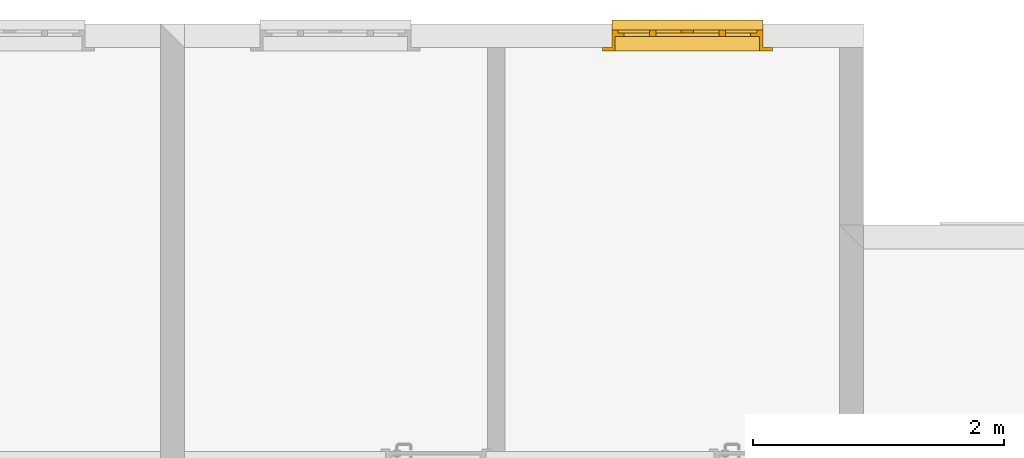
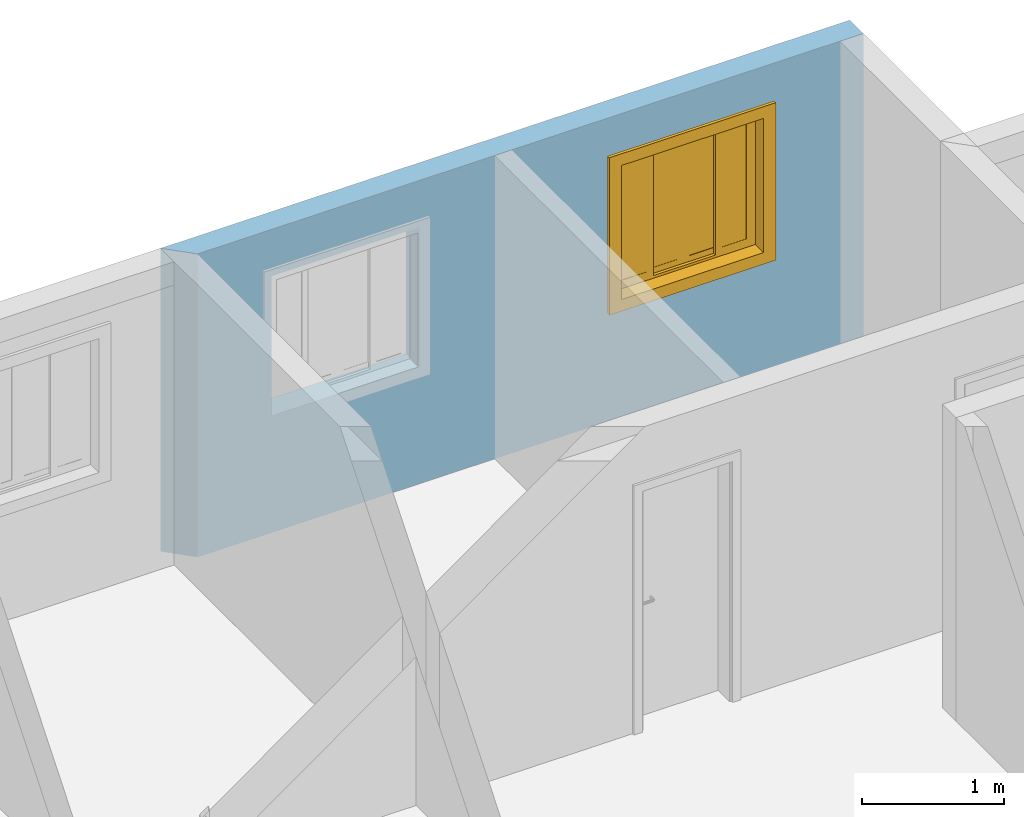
# One storey, part 45 of 47: 1 window, 2 openings, plus 1 element that does not belong to this part.
"""IFC2X3 building model written with IfcOpenShell, lengths in millimetres."""

from ifc_helpers import new_model, entity, si_unit, converted_unit, derived_unit, money_unit, direction, frame, origin_with_axes, origin_2d_with_axis, place, context, subcontext, project, spatial, polyline, rectangle, outline, extrude, open_shell, faceted_brep, surface_model, source, transform, mapped, material, layer, layer_set, layer_usage, type_object, element, fill, save


model = new_model("IFC2X3")

# Units and contexts
model_context = context("Model", 3, precision=0.01, world=origin_with_axes(), true_north=direction((0.0, 1.0)))
body_context = subcontext(model_context, "Body", "Model", "MODEL_VIEW")
ifc_project = project(units=[si_unit("LENGTHUNIT", "METRE", prefix="MILLI"), si_unit("AREAUNIT", "SQUARE_METRE"), si_unit("VOLUMEUNIT", "CUBIC_METRE"), converted_unit("PLANEANGLEUNIT", "DEGREE", entity("IfcPlaneAngleMeasure", 0.0174532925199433), si_unit("PLANEANGLEUNIT", "RADIAN"), dimensions=[0, 0, 0, 0, 0, 0, 0]), money_unit("USD"), converted_unit("TIMEUNIT", "Year", entity("IfcTimeMeasure", 31557600.0), si_unit("TIMEUNIT", "SECOND"), dimensions=[0, 0, 1, 0, 0, 0, 0]), si_unit("MASSUNIT", "GRAM", prefix="KILO"), si_unit("THERMODYNAMICTEMPERATUREUNIT", "DEGREE_CELSIUS"), si_unit("LUMINOUSINTENSITYUNIT", "LUMEN"), si_unit("ENERGYUNIT", "JOULE", prefix="MEGA"), derived_unit("THERMALCONDUCTANCEUNIT", [(si_unit("POWERUNIT", "WATT"), 1), (si_unit("LENGTHUNIT", "METRE"), -1), (si_unit("THERMODYNAMICTEMPERATUREUNIT", "KELVIN"), -1)]), derived_unit("SPECIFICHEATCAPACITYUNIT", [(si_unit("ENERGYUNIT", "JOULE"), 1), (si_unit("MASSUNIT", "GRAM", prefix="KILO"), -1), (si_unit("THERMODYNAMICTEMPERATUREUNIT", "KELVIN"), -1)]), derived_unit("MASSDENSITYUNIT", [(si_unit("MASSUNIT", "GRAM", prefix="KILO"), 1), (si_unit("VOLUMEUNIT", "CUBIC_METRE"), -1)])], contexts=[model_context])

# Site, building, storey
site_placement = place(None, origin_with_axes())
site = spatial("IfcSite", under=ifc_project, at=site_placement, Name="Local", CompositionType="ELEMENT")
building_placement = place(site_placement, origin_with_axes())
building = spatial("IfcBuilding", under=site, at=building_placement, Name="Construção", CompositionType="ELEMENT")
storey_placement = place(building_placement, origin_with_axes())
storey = spatial("IfcBuildingStorey", under=building, at=storey_placement, Name="Pavimento Tipo", CompositionType="ELEMENT", Elevation=0.0)

# Wall, openings, window
ifc_material = material(Name="Concreto - Estrutural")
ifc_layer = layer(ifc_material, 190.0, ventilated="UNKNOWN")
ifc_layer_set = layer_set([ifc_layer], Name="Concreto - Estrutural 190")
ifc_layer_usage = layer_usage(ifc_layer_set, "AXIS2", "NEGATIVE", 190.0)
wall_type = type_object("IfcWallType", Name="Concreto - Estrutural 190", PredefinedType="NOTDEFINED")
wall_placement = place(storey_placement, frame((6442.566997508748, 19186.98141771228, 0.0), z_axis=(0.0, 0.0, 1.0), x_axis=(-1.0, 0.0, 0.0)))
wall = element("IfcWallStandardCase", 1, at=wall_placement, inside=storey, type_object=wall_type, material=ifc_layer_usage, Name="Apartamento 1 - Parede-004", context=body_context, shape_type="SweptSolid", body=[
    extrude(outline(polyline([(0.0, 0.0), (5589.999999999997, 0.0), (5399.999999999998, 190.0000000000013), (0.0, 190.0000000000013), (0.0, 0.0)])), origin_with_axes(), (0.0, 0.0, 1.0), 2600.0),
])
opening_1_placement = place(wall_placement, frame((4199.999999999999, 0.0, 1000.0), z_axis=(0.0, 0.0, 1.0), x_axis=(1.0, 0.0, 0.0)))
element("IfcOpeningElement", 2, at=opening_1_placement, cuts=wall, Name="Apartamento 1 - J06", context=body_context, shape_type="SweptSolid", body=[
    extrude(rectangle(XDim=1200.0, YDim=1200.0, at=origin_2d_with_axis()), frame((0.0, 50.00000000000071, 600.0000000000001), z_axis=(0.0, -1.0, 0.0), x_axis=(-1.0, 0.0, 0.0)), (0.0, 0.0, -1.0), 330.0),
    extrude(rectangle(XDim=1200.0, YDim=1200.0, at=origin_2d_with_axis()), frame((0.0, 50.00000000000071, 600.0000000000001), z_axis=(0.0, 1.0, 0.0), x_axis=(-1.0, 0.0, 0.0)), (0.0, 0.0, -1.0), 240.0),
    extrude(rectangle(XDim=1350.0, YDim=1350.0, at=origin_2d_with_axis()), frame((0.0, 190.0000000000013, 599.9999999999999), z_axis=(0.0, -1.0, 0.0), x_axis=(-1.0, 0.0, 0.0)), (0.0, 0.0, -1.0), 240.0),
])
opening_2_placement = place(wall_placement, frame((1400.0, 0.0, 1000.0), z_axis=(0.0, 0.0, 1.0), x_axis=(1.0, 0.0, 0.0)))
opening_2 = element("IfcOpeningElement", 3, at=opening_2_placement, cuts=wall, Name="Apartamento 1 - J05", context=body_context, shape_type="SweptSolid", body=[
    extrude(rectangle(XDim=1199.999999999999, YDim=1200.0, at=origin_2d_with_axis()), frame((0.0, 50.00000000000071, 600.0000000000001), z_axis=(0.0, 1.0, 0.0), x_axis=(1.0, 0.0, 0.0)), (0.0, 0.0, 1.0), 330.0),
    extrude(rectangle(XDim=1199.999999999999, YDim=1200.0, at=origin_2d_with_axis()), frame((0.0, 50.00000000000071, 600.0000000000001), z_axis=(0.0, -1.0, 0.0), x_axis=(1.0, 0.0, 0.0)), (0.0, 0.0, 1.0), 240.0),
    extrude(rectangle(XDim=1350.0, YDim=1350.0, at=origin_2d_with_axis()), frame((0.0, 190.0000000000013, 599.9999999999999), z_axis=(0.0, 1.0, 0.0), x_axis=(1.0, 0.0, 0.0)), (0.0, 0.0, 1.0), 240.0),
])
window_style = type_object("IfcWindowStyle", Name="Janela de Correr 4-Folhas 27", ConstructionType="NOTDEFINED", OperationType="USERDEFINED", ParameterTakesPrecedence=False, Sizeable=False)
shared_shape = source(origin_with_axes(), body_context, "Body", "SurfaceModel", [
    faceted_brep([(600.0, 0.0, 5.0), (600.0, 50.0, 5.000000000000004), (600.0, 50.0, 27.37961103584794), (600.0, 0.0, 30.0), (-600.0, 0.0, 5.0), (-600.0, 50.0, 5.000000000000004), (-600.0, 80.0, 5.000000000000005), (600.0, 80.0, 5.000000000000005), (600.0, 80.0, 25.8073776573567), (-600.0, 80.0, 25.8073776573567), (-600.0, 50.0, 27.37961103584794), (-600.0, 0.0, 30.0)], [[[0, 1, 2, 3]], [[0, 4, 5, 6, 7, 1]], [[1, 7, 8, 2]], [[3, 2, 8, 9, 10, 11]], [[4, 0, 3, 11]], [[5, 4, 11, 10]], [[6, 5, 10, 9]], [[7, 6, 9, 8]]]),
    faceted_brep([(600.0, 0.0, 0.0), (600.0, 50.0, 0.0), (600.0, 50.0, 5.0), (600.0, 0.0, 5.0), (-600.0, 0.0, 0.0), (-600.0, 50.0, 0.0), (-600.0, 50.0, 5.0), (-600.0, 0.0, 5.0)], [[[0, 1, 2, 3]], [[0, 4, 5, 1]], [[1, 5, 6, 2]], [[3, 2, 6, 7]], [[4, 0, 3, 7]], [[5, 4, 7, 6]]]),
    faceted_brep([(600.0, -50.0, 0.0), (600.0, -140.0, 0.0), (-600.0, -140.0, 0.0), (-600.0, -50.0, 0.0), (600.0, -50.00000000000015, 1200.0), (600.0, -140.0000000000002, 1200.0), (-600.0, -140.0000000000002, 1200.0), (575.0, -140.0, 24.99999999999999), (-575.0, -140.0, 24.99999999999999), (-575.0, -140.0000000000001, 1175.0), (575.0, -140.0000000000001, 1175.0), (-600.0, -50.00000000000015, 1200.0), (575.0, -50.0, 24.99999999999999), (575.0, -50.00000000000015, 1175.0), (-575.0, -50.00000000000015, 1175.0), (-575.0, -50.0, 24.99999999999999)], [[[0, 1, 2, 3]], [[4, 5, 1, 0]], [[1, 5, 6, 2], [7, 8, 9, 10]], [[3, 2, 6, 11]], [[0, 3, 11, 4], [12, 13, 14, 15]], [[11, 6, 5, 4]], [[15, 8, 7, 12]], [[14, 9, 8, 15]], [[13, 10, 9, 14]], [[12, 7, 10, 13]]]),
    faceted_brep([(674.9999999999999, -165.0, -75.00000000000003), (575.0, -165.0, 24.99999999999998), (575.0, -140.0, 24.99999999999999), (674.9999999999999, -140.0, -75.00000000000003), (674.9999999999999, -165.0000000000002, 1275.0), (575.0, -165.0000000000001, 1175.0), (575.0, -140.0000000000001, 1175.0), (674.9999999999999, -140.0000000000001, 1275.0)], [[[0, 1, 2, 3]], [[0, 4, 5, 1]], [[1, 5, 6, 2]], [[3, 2, 6, 7]], [[4, 0, 3, 7]], [[5, 4, 7, 6]]]),
    faceted_brep([(-674.9999999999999, -165.0000000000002, 1275.0), (-575.0, -165.0000000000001, 1175.0), (-575.0, -140.0000000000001, 1175.0), (-674.9999999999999, -140.0000000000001, 1275.0), (-674.9999999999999, -165.0, -75.00000000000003), (-575.0, -165.0, 24.99999999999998), (-575.0, -140.0, 24.99999999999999), (-674.9999999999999, -140.0, -75.00000000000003)], [[[0, 1, 2, 3]], [[0, 4, 5, 1]], [[1, 5, 6, 2]], [[3, 2, 6, 7]], [[4, 0, 3, 7]], [[5, 4, 7, 6]]]),
    faceted_brep([(-674.9999999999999, -165.0, -75.00000000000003), (-575.0, -165.0, 24.99999999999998), (-575.0, -140.0, 24.99999999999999), (-674.9999999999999, -140.0, -75.00000000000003), (674.9999999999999, -165.0, -75.00000000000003), (575.0, -165.0, 24.99999999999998), (575.0, -140.0, 24.99999999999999), (674.9999999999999, -140.0, -75.00000000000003)], [[[0, 1, 2, 3]], [[0, 4, 5, 1]], [[1, 5, 6, 2]], [[3, 2, 6, 7]], [[4, 0, 3, 7]], [[5, 4, 7, 6]]]),
    faceted_brep([(674.9999999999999, -165.0000000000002, 1275.0), (575.0, -165.0000000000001, 1175.0), (575.0, -140.0000000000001, 1175.0), (674.9999999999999, -140.0000000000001, 1275.0), (-674.9999999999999, -165.0000000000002, 1275.0), (-575.0, -165.0000000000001, 1175.0), (-575.0, -140.0000000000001, 1175.0), (-674.9999999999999, -140.0000000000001, 1275.0)], [[[0, 1, 2, 3]], [[0, 4, 5, 1]], [[1, 5, 6, 2]], [[3, 2, 6, 7]], [[4, 0, 3, 7]], [[5, 4, 7, 6]]]),
    faceted_brep([(552.9999999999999, -50.00000000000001, 47.0), (552.9999999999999, -50.00000000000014, 1153.0), (552.9999999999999, 0.0, 1153.0), (552.9999999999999, 0.0, 47.00000000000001), (600.0, -50.00000000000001, 47.0), (600.0, -50.00000000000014, 1153.0), (600.0, 0.0, 1153.0), (600.0, 0.0, 47.00000000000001)], [[[0, 1, 2, 3]], [[0, 4, 5, 1]], [[1, 5, 6, 2]], [[3, 2, 6, 7]], [[4, 0, 3, 7]], [[5, 4, 7, 6]]]),
    faceted_brep([(-600.0, -50.00000000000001, 47.0), (-600.0, -50.00000000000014, 1153.0), (-600.0, 0.0, 1153.0), (-600.0, 0.0, 47.00000000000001), (-552.9999999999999, -50.00000000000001, 47.0), (-552.9999999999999, -50.00000000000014, 1153.0), (-552.9999999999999, 0.0, 1153.0), (-552.9999999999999, 0.0, 47.00000000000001)], [[[0, 1, 2, 3]], [[0, 4, 5, 1]], [[1, 5, 6, 2]], [[3, 2, 6, 7]], [[4, 0, 3, 7]], [[5, 4, 7, 6]]]),
    faceted_brep([(-600.0, -50.00000000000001, 47.0), (-552.9999999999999, -50.00000000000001, 47.0), (-552.9999999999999, 0.0, 47.00000000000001), (-600.0, 0.0, 47.00000000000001), (-600.0, -50.0, 0.0), (600.0, -50.0, 0.0), (600.0, -50.00000000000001, 47.0), (552.9999999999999, -50.00000000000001, 47.0), (552.9999999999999, 0.0, 47.00000000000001), (600.0, 0.0, 47.00000000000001), (600.0, 0.0, 0.0), (-600.0, 0.0, 0.0)], [[[0, 1, 2, 3]], [[0, 4, 5, 6, 7, 1]], [[1, 7, 8, 2]], [[3, 2, 8, 9, 10, 11]], [[4, 0, 3, 11]], [[5, 4, 11, 10]], [[6, 5, 10, 9]], [[7, 6, 9, 8]]]),
    faceted_brep([(-600.0, -50.00000000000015, 1200.0), (600.0, -50.00000000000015, 1200.0), (600.0, 0.0, 1200.0), (-600.0, 0.0, 1200.0), (-600.0, -50.00000000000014, 1153.0), (-552.9999999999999, -50.00000000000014, 1153.0), (-276.5, -50.00000000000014, 1153.0), (0.0, -50.00000000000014, 1153.0), (276.4999999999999, -50.00000000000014, 1153.0), (552.9999999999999, -50.00000000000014, 1153.0), (600.0, -50.00000000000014, 1153.0), (600.0, 0.0, 1153.0), (552.9999999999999, 0.0, 1153.0), (276.4999999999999, 0.0, 1153.0), (0.0, 0.0, 1153.0), (-276.5, 0.0, 1153.0), (-552.9999999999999, 0.0, 1153.0), (-600.0, 0.0, 1153.0)], [[[0, 1, 2, 3]], [[0, 4, 5, 6, 7, 8, 9, 10, 1]], [[1, 10, 11, 2]], [[3, 2, 11, 12, 13, 14, 15, 16, 17]], [[4, 0, 3, 17]], [[5, 4, 17, 16]], [[6, 5, 16, 15]], [[7, 6, 15, 14]], [[8, 7, 14, 13]], [[9, 8, 13, 12]], [[10, 9, 12, 11]]]),
    faceted_brep([(502.9999999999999, -50.00000000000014, 1103.0), (552.9999999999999, -50.00000000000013, 1103.0), (552.9999999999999, -25.00000000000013, 1103.0), (502.9999999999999, -25.00000000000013, 1103.0), (502.9999999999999, -50.00000000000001, 97.0), (552.9999999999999, -50.00000000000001, 97.0), (552.9999999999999, -25.0, 97.0), (502.9999999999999, -25.00000000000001, 97.0)], [[[0, 1, 2, 3]], [[0, 4, 5, 1]], [[1, 5, 6, 2]], [[3, 2, 6, 7]], [[4, 0, 3, 7]], [[5, 4, 7, 6]]]),
    faceted_brep([(301.4999999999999, -50.00000000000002, 97.0), (251.4999999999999, -50.00000000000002, 97.0), (251.4999999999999, -25.00000000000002, 97.0), (301.4999999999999, -25.00000000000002, 97.0), (301.4999999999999, -50.00000000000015, 1103.0), (251.4999999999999, -50.00000000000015, 1103.0), (251.4999999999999, -25.00000000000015, 1103.0), (301.4999999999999, -25.00000000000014, 1103.0)], [[[0, 1, 2, 3]], [[0, 4, 5, 1]], [[1, 5, 6, 2]], [[3, 2, 6, 7]], [[4, 0, 3, 7]], [[5, 4, 7, 6]]]),
    faceted_brep([(251.4999999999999, -50.00000000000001, 47.0), (251.4999999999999, -50.00000000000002, 97.0), (251.4999999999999, -25.00000000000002, 97.0), (251.4999999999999, -25.00000000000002, 47.0), (552.9999999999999, -50.0, 47.0), (552.9999999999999, -50.00000000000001, 97.0), (502.9999999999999, -50.00000000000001, 97.0), (301.4999999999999, -50.00000000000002, 97.0), (301.4999999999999, -25.00000000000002, 97.0), (502.9999999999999, -25.00000000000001, 97.0), (552.9999999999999, -25.0, 97.0), (552.9999999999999, -25.0, 47.0)], [[[0, 1, 2, 3]], [[0, 4, 5, 6, 7, 1]], [[1, 7, 8, 2]], [[3, 2, 8, 9, 10, 11]], [[4, 0, 3, 11]], [[5, 4, 11, 10]], [[6, 5, 10, 9]], [[7, 6, 9, 8]]]),
    faceted_brep([(552.9999999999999, -50.00000000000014, 1153.0), (552.9999999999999, -50.00000000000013, 1103.0), (552.9999999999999, -25.00000000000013, 1103.0), (552.9999999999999, -25.00000000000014, 1153.0), (251.4999999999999, -50.00000000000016, 1153.0), (251.4999999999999, -50.00000000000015, 1103.0), (301.4999999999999, -50.00000000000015, 1103.0), (502.9999999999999, -50.00000000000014, 1103.0), (502.9999999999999, -25.00000000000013, 1103.0), (301.4999999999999, -25.00000000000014, 1103.0), (251.4999999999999, -25.00000000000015, 1103.0), (251.4999999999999, -25.00000000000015, 1153.0)], [[[0, 1, 2, 3]], [[0, 4, 5, 6, 7, 1]], [[1, 7, 8, 2]], [[3, 2, 8, 9, 10, 11]], [[4, 0, 3, 11]], [[5, 4, 11, 10]], [[6, 5, 10, 9]], [[7, 6, 9, 8]]]),
    surface_model("IfcShellBasedSurfaceModel", [(502.9999999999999, -47.50000000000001, 97.0), (502.9999999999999, -47.50000000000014, 1103.0), (301.4999999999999, -47.50000000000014, 1103.0), (301.4999999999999, -47.50000000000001, 97.0)], [open_shell([[[0, 1, 2, 3]]])]),
    surface_model("IfcShellBasedSurfaceModel", [(502.9999999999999, -27.50000000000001, 97.0), (301.4999999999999, -27.50000000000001, 97.0), (301.4999999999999, -27.50000000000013, 1103.0), (502.9999999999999, -27.50000000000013, 1103.0)], [open_shell([[[0, 1, 2, 3]]])]),
    faceted_brep([(251.4999999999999, -25.00000000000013, 1103.0), (301.4999999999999, -25.00000000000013, 1103.0), (301.4999999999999, 0.0, 1103.0), (251.4999999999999, 0.0, 1103.0), (251.4999999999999, -25.00000000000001, 97.0), (301.4999999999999, -25.0, 97.0), (301.4999999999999, 0.0, 97.0), (251.4999999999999, 0.0, 97.0)], [[[0, 1, 2, 3]], [[0, 4, 5, 1]], [[1, 5, 6, 2]], [[3, 2, 6, 7]], [[4, 0, 3, 7]], [[5, 4, 7, 6]]]),
    faceted_brep([(49.99999999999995, -25.00000000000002, 97.0), (0.0, -25.00000000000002, 97.0), (0.0, 0.0, 97.0), (49.99999999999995, 0.0, 97.0), (49.99999999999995, -25.00000000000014, 1103.0), (0.0, -25.00000000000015, 1103.0), (0.0, 0.0, 1103.0), (49.99999999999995, 0.0, 1103.0)], [[[0, 1, 2, 3]], [[0, 4, 5, 1]], [[1, 5, 6, 2]], [[3, 2, 6, 7]], [[4, 0, 3, 7]], [[5, 4, 7, 6]]]),
    faceted_brep([(0.0, -25.00000000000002, 47.0), (0.0, -25.00000000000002, 97.0), (0.0, 0.0, 97.0), (0.0, 0.0, 47.0), (301.4999999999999, -25.0, 47.0), (301.4999999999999, -25.0, 97.0), (251.4999999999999, -25.00000000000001, 97.0), (49.99999999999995, -25.00000000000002, 97.0), (49.99999999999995, 0.0, 97.0), (251.4999999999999, 0.0, 97.0), (301.4999999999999, 0.0, 97.0), (301.4999999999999, 0.0, 47.0)], [[[0, 1, 2, 3]], [[0, 4, 5, 6, 7, 1]], [[1, 7, 8, 2]], [[3, 2, 8, 9, 10, 11]], [[4, 0, 3, 11]], [[5, 4, 11, 10]], [[6, 5, 10, 9]], [[7, 6, 9, 8]]]),
    faceted_brep([(301.4999999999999, -25.00000000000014, 1153.0), (301.4999999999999, -25.00000000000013, 1103.0), (301.4999999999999, 0.0, 1103.0), (301.4999999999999, 0.0, 1153.0), (0.0, -25.00000000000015, 1153.0), (0.0, -25.00000000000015, 1103.0), (49.99999999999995, -25.00000000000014, 1103.0), (251.4999999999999, -25.00000000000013, 1103.0), (251.4999999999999, 0.0, 1103.0), (49.99999999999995, 0.0, 1103.0), (0.0, 0.0, 1103.0), (0.0, 0.0, 1153.0)], [[[0, 1, 2, 3]], [[0, 4, 5, 6, 7, 1]], [[1, 7, 8, 2]], [[3, 2, 8, 9, 10, 11]], [[4, 0, 3, 11]], [[5, 4, 11, 10]], [[6, 5, 10, 9]], [[7, 6, 9, 8]]]),
    surface_model("IfcShellBasedSurfaceModel", [(251.4999999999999, -22.50000000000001, 97.0), (251.4999999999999, -22.50000000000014, 1103.0), (49.99999999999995, -22.50000000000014, 1103.0), (49.99999999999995, -22.50000000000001, 97.0)], [open_shell([[[0, 1, 2, 3]]])]),
    surface_model("IfcShellBasedSurfaceModel", [(251.4999999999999, -2.500000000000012, 97.0), (49.99999999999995, -2.500000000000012, 97.0), (49.99999999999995, -2.500000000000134, 1103.0), (251.4999999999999, -2.500000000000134, 1103.0)], [open_shell([[[0, 1, 2, 3]]])]),
    faceted_brep([(-50.00000000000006, -25.00000000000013, 1103.0), (0.0, -25.00000000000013, 1103.0), (0.0, 0.0, 1103.0), (-50.00000000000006, 0.0, 1103.0), (-50.00000000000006, -25.00000000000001, 97.0), (0.0, -25.0, 97.0), (0.0, 0.0, 97.0), (-50.00000000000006, 0.0, 97.0)], [[[0, 1, 2, 3]], [[0, 4, 5, 1]], [[1, 5, 6, 2]], [[3, 2, 6, 7]], [[4, 0, 3, 7]], [[5, 4, 7, 6]]]),
    faceted_brep([(-251.5000000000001, -25.00000000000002, 97.0), (-301.5000000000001, -25.00000000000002, 97.0), (-301.5000000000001, 0.0, 97.0), (-251.5000000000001, 0.0, 97.0), (-251.5000000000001, -25.00000000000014, 1103.0), (-301.5000000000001, -25.00000000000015, 1103.0), (-301.5000000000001, 0.0, 1103.0), (-251.5000000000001, 0.0, 1103.0)], [[[0, 1, 2, 3]], [[0, 4, 5, 1]], [[1, 5, 6, 2]], [[3, 2, 6, 7]], [[4, 0, 3, 7]], [[5, 4, 7, 6]]]),
    faceted_brep([(-301.5000000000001, -25.00000000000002, 47.0), (-301.5000000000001, -25.00000000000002, 97.0), (-301.5000000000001, 0.0, 97.0), (-301.5000000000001, 0.0, 47.0), (0.0, -25.0, 47.0), (0.0, -25.0, 97.0), (-50.00000000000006, -25.00000000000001, 97.0), (-251.5000000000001, -25.00000000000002, 97.0), (-251.5000000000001, 0.0, 97.0), (-50.00000000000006, 0.0, 97.0), (0.0, 0.0, 97.0), (0.0, 0.0, 47.0)], [[[0, 1, 2, 3]], [[0, 4, 5, 6, 7, 1]], [[1, 7, 8, 2]], [[3, 2, 8, 9, 10, 11]], [[4, 0, 3, 11]], [[5, 4, 11, 10]], [[6, 5, 10, 9]], [[7, 6, 9, 8]]]),
    faceted_brep([(0.0, -25.00000000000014, 1153.0), (0.0, -25.00000000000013, 1103.0), (0.0, 0.0, 1103.0), (0.0, 0.0, 1153.0), (-301.5000000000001, -25.00000000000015, 1153.0), (-301.5000000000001, -25.00000000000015, 1103.0), (-251.5000000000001, -25.00000000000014, 1103.0), (-50.00000000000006, -25.00000000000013, 1103.0), (-50.00000000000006, 0.0, 1103.0), (-251.5000000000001, 0.0, 1103.0), (-301.5000000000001, 0.0, 1103.0), (-301.5000000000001, 0.0, 1153.0)], [[[0, 1, 2, 3]], [[0, 4, 5, 6, 7, 1]], [[1, 7, 8, 2]], [[3, 2, 8, 9, 10, 11]], [[4, 0, 3, 11]], [[5, 4, 11, 10]], [[6, 5, 10, 9]], [[7, 6, 9, 8]]]),
    surface_model("IfcShellBasedSurfaceModel", [(-50.00000000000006, -22.50000000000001, 97.0), (-50.00000000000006, -22.50000000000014, 1103.0), (-251.5000000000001, -22.50000000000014, 1103.0), (-251.5000000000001, -22.50000000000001, 97.0)], [open_shell([[[0, 1, 2, 3]]])]),
    surface_model("IfcShellBasedSurfaceModel", [(-50.00000000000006, -2.500000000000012, 97.0), (-251.5000000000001, -2.500000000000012, 97.0), (-251.5000000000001, -2.500000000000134, 1103.0), (-50.00000000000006, -2.500000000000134, 1103.0)], [open_shell([[[0, 1, 2, 3]]])]),
    faceted_brep([(-301.5000000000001, -50.00000000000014, 1103.0), (-251.5000000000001, -50.00000000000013, 1103.0), (-251.5000000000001, -25.00000000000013, 1103.0), (-301.5000000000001, -25.00000000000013, 1103.0), (-301.5000000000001, -50.00000000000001, 97.0), (-251.5000000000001, -50.00000000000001, 97.0), (-251.5000000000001, -25.0, 97.0), (-301.5000000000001, -25.00000000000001, 97.0)], [[[0, 1, 2, 3]], [[0, 4, 5, 1]], [[1, 5, 6, 2]], [[3, 2, 6, 7]], [[4, 0, 3, 7]], [[5, 4, 7, 6]]]),
    faceted_brep([(-503.0, -50.00000000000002, 97.0), (-553.0, -50.00000000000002, 97.0), (-553.0, -25.00000000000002, 97.0), (-503.0, -25.00000000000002, 97.0), (-503.0, -50.00000000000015, 1103.0), (-553.0, -50.00000000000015, 1103.0), (-553.0, -25.00000000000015, 1103.0), (-503.0, -25.00000000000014, 1103.0)], [[[0, 1, 2, 3]], [[0, 4, 5, 1]], [[1, 5, 6, 2]], [[3, 2, 6, 7]], [[4, 0, 3, 7]], [[5, 4, 7, 6]]]),
    faceted_brep([(-553.0, -50.00000000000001, 47.0), (-553.0, -50.00000000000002, 97.0), (-553.0, -25.00000000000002, 97.0), (-553.0, -25.00000000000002, 47.0), (-251.5000000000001, -50.0, 47.0), (-251.5000000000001, -50.00000000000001, 97.0), (-301.5000000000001, -50.00000000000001, 97.0), (-503.0, -50.00000000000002, 97.0), (-503.0, -25.00000000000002, 97.0), (-301.5000000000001, -25.00000000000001, 97.0), (-251.5000000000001, -25.0, 97.0), (-251.5000000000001, -25.0, 47.0)], [[[0, 1, 2, 3]], [[0, 4, 5, 6, 7, 1]], [[1, 7, 8, 2]], [[3, 2, 8, 9, 10, 11]], [[4, 0, 3, 11]], [[5, 4, 11, 10]], [[6, 5, 10, 9]], [[7, 6, 9, 8]]]),
    faceted_brep([(-251.5000000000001, -50.00000000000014, 1153.0), (-251.5000000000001, -50.00000000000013, 1103.0), (-251.5000000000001, -25.00000000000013, 1103.0), (-251.5000000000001, -25.00000000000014, 1153.0), (-553.0, -50.00000000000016, 1153.0), (-553.0, -50.00000000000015, 1103.0), (-503.0, -50.00000000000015, 1103.0), (-301.5000000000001, -50.00000000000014, 1103.0), (-301.5000000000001, -25.00000000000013, 1103.0), (-503.0, -25.00000000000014, 1103.0), (-553.0, -25.00000000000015, 1103.0), (-553.0, -25.00000000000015, 1153.0)], [[[0, 1, 2, 3]], [[0, 4, 5, 6, 7, 1]], [[1, 7, 8, 2]], [[3, 2, 8, 9, 10, 11]], [[4, 0, 3, 11]], [[5, 4, 11, 10]], [[6, 5, 10, 9]], [[7, 6, 9, 8]]]),
    surface_model("IfcShellBasedSurfaceModel", [(-301.5, -47.50000000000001, 97.0), (-301.5, -47.50000000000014, 1103.0), (-503.0, -47.50000000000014, 1103.0), (-503.0, -47.50000000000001, 97.0)], [open_shell([[[0, 1, 2, 3]]])]),
    surface_model("IfcShellBasedSurfaceModel", [(-301.5, -27.50000000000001, 97.0), (-503.0, -27.50000000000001, 97.0), (-503.0, -27.50000000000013, 1103.0), (-301.5, -27.50000000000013, 1103.0)], [open_shell([[[0, 1, 2, 3]]])]),
])
window_placement = place(opening_2_placement, frame((599.9999999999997, 0.0, 0.0), z_axis=(0.0, 0.0, 1.0), x_axis=(-1.0, 0.0, 0.0)))
window = element("IfcWindow", 4, at=window_placement, inside=storey, type_object=window_style, Name="Apartamento 1 - J05", ObjectType="WINDOW", OverallHeight=1200.0, OverallWidth=1200.0, context=body_context, shape_type="MappedRepresentation", body=[
    mapped(shared_shape, transform((599.9999999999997, -50.00000000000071, 0.0))),
])
fill(opening_2, window)

save(model, "model.ifc")
